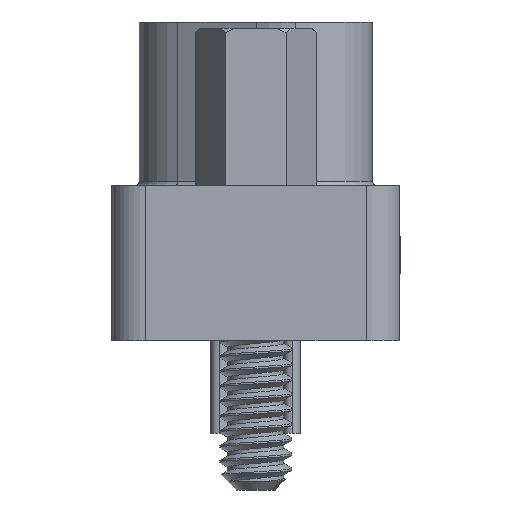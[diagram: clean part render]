
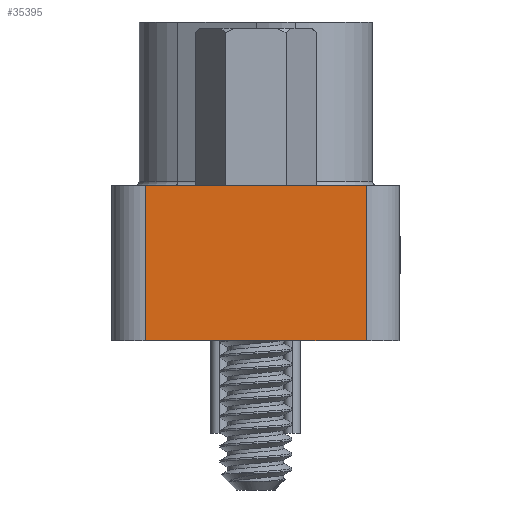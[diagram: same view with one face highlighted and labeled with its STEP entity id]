
A CAD part, left-side view. The second image highlights one B-rep face of the part: STEP entity #35395.
In plain terms, the highlighted planar face has unit normal (-1, 0, 0).
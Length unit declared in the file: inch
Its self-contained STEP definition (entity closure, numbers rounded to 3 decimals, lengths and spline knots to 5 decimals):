
#5739 = CARTESIAN_POINT ( 'NONE',  ( -0.7125, 0.153, 0.04 ) ) ;
#5741 = CARTESIAN_POINT ( 'NONE',  ( -0.7125, -0.11, -0.145 ) ) ;
#5743 = CARTESIAN_POINT ( 'NONE',  ( -0.7125, -0.11, 0.04 ) ) ;
#5744 = DIRECTION ( 'NONE',  ( 0., 0., -1. ) ) ;
#5745 = CARTESIAN_POINT ( 'NONE',  ( -0.7125, -0.11, 0.04 ) ) ;
#5746 = DIRECTION ( 'NONE',  ( 0., 1., 0. ) ) ;
#5747 = DIRECTION ( 'NONE',  ( 0., 0., -1. ) ) ;
#5749 = DIRECTION ( 'NONE',  ( 0., 1., 0. ) ) ;
#7296 = CARTESIAN_POINT ( 'NONE',  ( -0.7125, -0.11, 0.04 ) ) ;
#7303 = CARTESIAN_POINT ( 'NONE',  ( -0.7125, 0.153, 0.04 ) ) ;
#7305 = CARTESIAN_POINT ( 'NONE',  ( -0.7125, -0.11, -0.145 ) ) ;
#7368 = CARTESIAN_POINT ( 'NONE',  ( -0.7125, 0.153, -0.145 ) ) ;
#9124 = PLANE ( 'NONE',  #12495 ) ;
#9128 = CARTESIAN_POINT ( 'NONE',  ( -0.7125, -0.11, 0.04 ) ) ;
#9136 = DIRECTION ( 'NONE',  ( -1., 0., 0. ) ) ;
#9138 = DIRECTION ( 'NONE',  ( 0., 0., 1. ) ) ;
#12495 = AXIS2_PLACEMENT_3D ( 'NONE', #9128, #9136, #9138 ) ;
#19189 = LINE ( 'NONE', #5739, #19194 ) ;
#19191 = LINE ( 'NONE', #5741, #19196 ) ;
#19193 = LINE ( 'NONE', #5743, #19198 ) ;
#19194 = VECTOR ( 'NONE', #5744, 39.37008 ) ;
#19195 = LINE ( 'NONE', #5745, #19200 ) ;
#19196 = VECTOR ( 'NONE', #5746, 39.37008 ) ;
#19198 = VECTOR ( 'NONE', #5747, 39.37008 ) ;
#19200 = VECTOR ( 'NONE', #5749, 39.37008 ) ;
#23995 = VERTEX_POINT ( 'NONE', #7296 ) ;
#24013 = VERTEX_POINT ( 'NONE', #7303 ) ;
#24041 = VERTEX_POINT ( 'NONE', #7305 ) ;
#24186 = VERTEX_POINT ( 'NONE', #7368 ) ;
#24197 = ORIENTED_EDGE ( 'NONE', *, *, #44972, .F. ) ;
#24245 = ORIENTED_EDGE ( 'NONE', *, *, #44974, .T. ) ;
#24308 = ORIENTED_EDGE ( 'NONE', *, *, #44971, .T. ) ;
#24389 = ORIENTED_EDGE ( 'NONE', *, *, #44973, .F. ) ;
#26425 = FACE_OUTER_BOUND ( 'NONE', #46984, .T. ) ;
#35395 = ADVANCED_FACE ( 'NONE', ( #26425 ), #9124, .T. ) ;
#44971 = EDGE_CURVE ( 'NONE', #24013, #24186, #19189, .T. ) ;
#44972 = EDGE_CURVE ( 'NONE', #24041, #24186, #19191, .T. ) ;
#44973 = EDGE_CURVE ( 'NONE', #23995, #24041, #19193, .T. ) ;
#44974 = EDGE_CURVE ( 'NONE', #23995, #24013, #19195, .T. ) ;
#46984 = EDGE_LOOP ( 'NONE', ( #24308, #24197, #24389, #24245 ) ) ;
